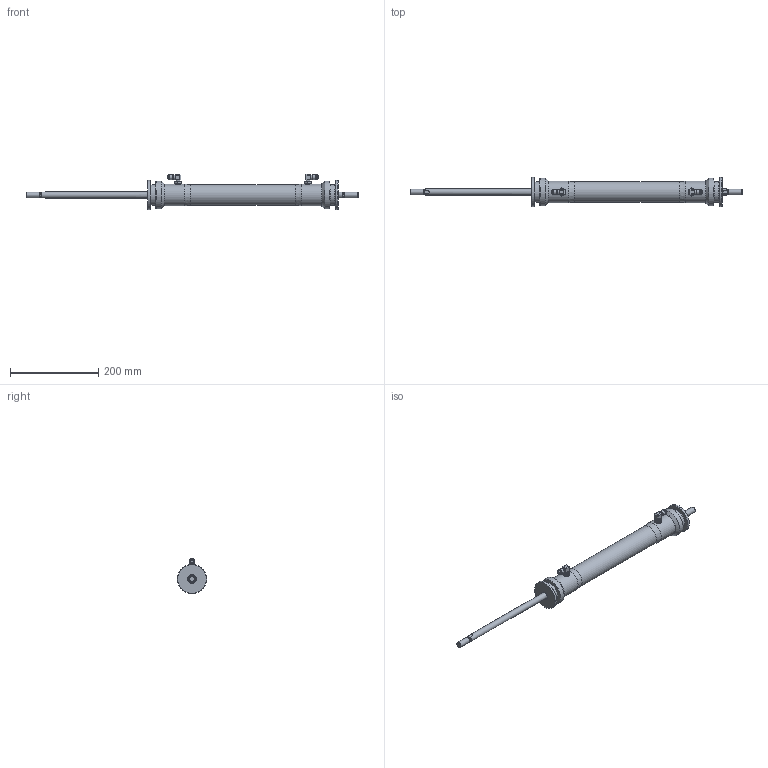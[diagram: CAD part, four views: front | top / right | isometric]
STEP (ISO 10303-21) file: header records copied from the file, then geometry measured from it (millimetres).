
FILE_DESCRIPTION(/* description */ (''),/* implementation_level */ '2;1');
FILE_NAME(/* name */ 'C:\STP.CR\TDA-71_Simplify_1 Rev1.stp',/* time_stamp */ '2021-11-02T10:00:02+00:00',/* author */ ('AL'),/* organization */ (''),/* preprocessor_version */ 'ST-DEVELOPER v18.1',/* originating_system */ 'Autodesk Inventor 2022',/* authorisation */ '');
FILE_SCHEMA (('AUTOMOTIVE_DESIGN { 1 0 10303 214 3 1 1 }'));
Length unit declared in the file: millimetre
Products named in the file (1): TDA-71_Simplify_1
Bounding box: 750.4 x 65.8 x 79.35 mm (x, y, z)
Volume: 853593 mm3; surface area: 101644.9 mm2
Topology: 1 solids, 1 shells, 177 faces, 365 edges, 222 vertices
Faces by surface type: plane 80, cylinder 43, cone 38, torus 16
Full cylindrical faces by diameter (mm): 7.728 x2, 8.728 x2, 9.728 x4, 10.01 x4, 10.249 x2, 11.01 x2, 11.11 x2, 12.649 x2, 14 x2, 15.1 x4, 16 x2, 17 x2, 19 x2, 20.6 x2, 45.8 x1, 47 x2, 48.8 x2, 62.8 x2, 65.8 x2
Entity records: 4921 total; most frequent: CARTESIAN_POINT 883, DIRECTION 851, ORIENTED_EDGE 730, EDGE_CURVE 365, AXIS2_PLACEMENT_3D 346, VERTEX_POINT 222, EDGE_LOOP 209, STYLED_ITEM 178
